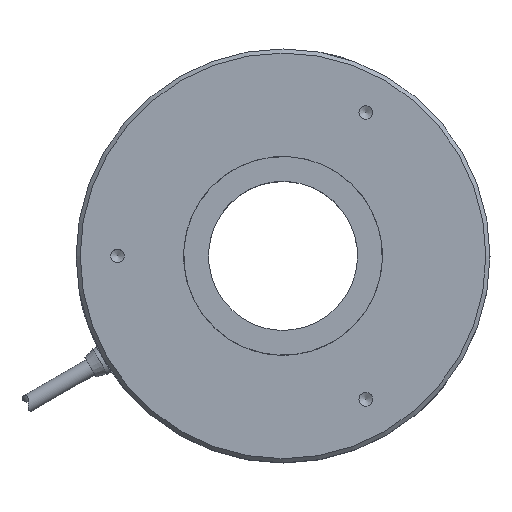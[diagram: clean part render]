
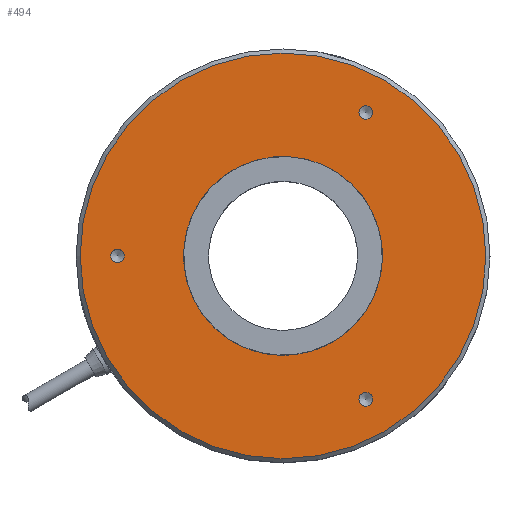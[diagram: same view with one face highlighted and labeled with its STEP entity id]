
A CAD part, top view. The second image highlights one B-rep face of the part: STEP entity #494.
In plain terms, the highlighted planar face has unit normal (0, 0, 1).
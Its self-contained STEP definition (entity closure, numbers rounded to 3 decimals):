
#494=ADVANCED_FACE('',(#833,#834,#835,#836,#837),#838,.T.);
#833=FACE_BOUND('',#1252,.T.);
#834=FACE_OUTER_BOUND('',#1253,.T.);
#835=FACE_BOUND('',#1254,.T.);
#836=FACE_BOUND('',#1255,.T.);
#837=FACE_BOUND('',#1256,.T.);
#838=PLANE('',#1257);
#1252=EDGE_LOOP('',(#1694));
#1253=EDGE_LOOP('',(#1695));
#1254=EDGE_LOOP('',(#1696));
#1255=EDGE_LOOP('',(#1697));
#1256=EDGE_LOOP('',(#1698));
#1257=AXIS2_PLACEMENT_3D('',#1699,#1700,#1701);
#1694=ORIENTED_EDGE('',*,*,#2468,.F.);
#1695=ORIENTED_EDGE('',*,*,#2499,.T.);
#1696=ORIENTED_EDGE('',*,*,#2501,.F.);
#1697=ORIENTED_EDGE('',*,*,#2502,.F.);
#1698=ORIENTED_EDGE('',*,*,#2503,.F.);
#1699=CARTESIAN_POINT('',(0.,0.,0.0));
#1700=DIRECTION('',(0.0,0.0,1.0));
#1701=DIRECTION('',(1.0,0.0,0.0));
#2468=EDGE_CURVE('',#2803,#2803,#2804,.T.);
#2499=EDGE_CURVE('',#2853,#2853,#2854,.F.);
#2501=EDGE_CURVE('',#2856,#2856,#2857,.T.);
#2502=EDGE_CURVE('',#2858,#2858,#2859,.T.);
#2503=EDGE_CURVE('',#2860,#2860,#2861,.T.);
#2803=VERTEX_POINT('',#3351);
#2804=CIRCLE('',#3352,24.0);
#2853=VERTEX_POINT('',#3630);
#2854=CIRCLE('',#3631,49.0);
#2856=VERTEX_POINT('',#3633);
#2857=CIRCLE('',#3634,1.65);
#2858=VERTEX_POINT('',#3635);
#2859=CIRCLE('',#3636,1.65);
#2860=VERTEX_POINT('',#3637);
#2861=CIRCLE('',#3638,1.65);
#3351=CARTESIAN_POINT('',(24.0,0.,0.0));
#3352=AXIS2_PLACEMENT_3D('',#4270,#4271,#4272);
#3630=CARTESIAN_POINT('',(-49.0,0.,0.));
#3631=AXIS2_PLACEMENT_3D('',#4314,#4315,#4316);
#3633=CARTESIAN_POINT('',(20.825,-36.07,0.));
#3634=AXIS2_PLACEMENT_3D('',#4317,#4318,#4319);
#3635=CARTESIAN_POINT('',(20.825,36.07,0.));
#3636=AXIS2_PLACEMENT_3D('',#4320,#4321,#4322);
#3637=CARTESIAN_POINT('',(-41.65,0.,0.));
#3638=AXIS2_PLACEMENT_3D('',#4323,#4324,#4325);
#4270=CARTESIAN_POINT('',(0.,0.,0.0));
#4271=DIRECTION('',(0.0,0.0,1.0));
#4272=DIRECTION('',(1.0,0.0,0.0));
#4314=CARTESIAN_POINT('',(0.,0.,0.));
#4315=DIRECTION('',(0.,0.,-1.0));
#4316=DIRECTION('',(-1.0,0.,0.));
#4317=CARTESIAN_POINT('',(20.0,-34.641,0.));
#4318=DIRECTION('',(0.,0.,1.0));
#4319=DIRECTION('',(0.5,-0.866,0.));
#4320=CARTESIAN_POINT('',(20.0,34.641,0.));
#4321=DIRECTION('',(0.,0.,1.0));
#4322=DIRECTION('',(0.5,0.866,0.));
#4323=CARTESIAN_POINT('',(-40.0,0.,0.));
#4324=DIRECTION('',(0.,0.,1.0));
#4325=DIRECTION('',(-1.0,0.,0.));
